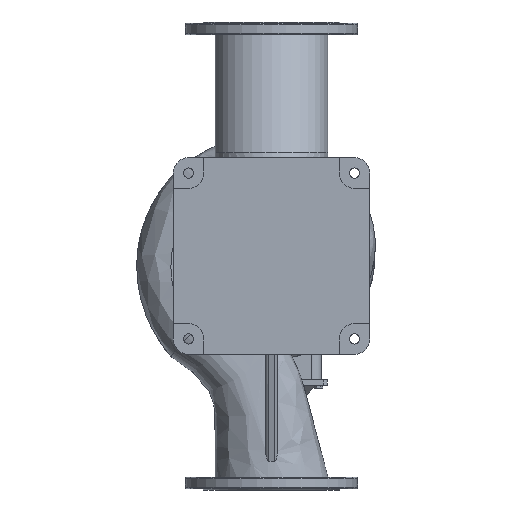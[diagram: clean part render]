
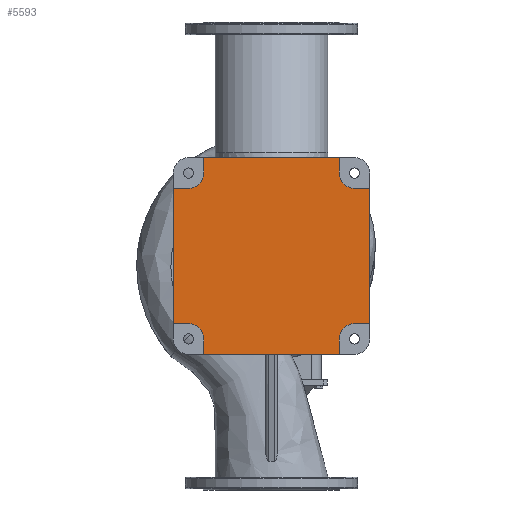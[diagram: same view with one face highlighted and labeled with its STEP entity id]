
A CAD part, front view. The second image highlights one B-rep face of the part: STEP entity #5593.
In plain terms, the highlighted planar face has unit normal (0, -1, 0).
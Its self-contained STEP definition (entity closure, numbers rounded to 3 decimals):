
#805 = EDGE_CURVE ( 'NONE', #48292, #57096, #47010, .T. ) ;
#837 = ORIENTED_EDGE ( 'NONE', *, *, #15799, .T. ) ;
#1510 = ORIENTED_EDGE ( 'NONE', *, *, #47247, .T. ) ;
#2461 = ORIENTED_EDGE ( 'NONE', *, *, #77163, .T. ) ;
#2468 = CARTESIAN_POINT ( 'NONE',  ( -159., -295., -231. ) ) ;
#3539 = CARTESIAN_POINT ( 'NONE',  ( 195., -295., -195. ) ) ;
#4207 = CARTESIAN_POINT ( 'NONE',  ( -195., -295., -195. ) ) ;
#5561 = ORIENTED_EDGE ( 'NONE', *, *, #36213, .T. ) ;
#5593 = ADVANCED_FACE ( 'NONE', ( #45894 ), #69877, .F. ) ;
#5742 = CARTESIAN_POINT ( 'NONE',  ( 159., -295., -231. ) ) ;
#6068 = EDGE_CURVE ( 'NONE', #41532, #18118, #39637, .T. ) ;
#7045 = CARTESIAN_POINT ( 'NONE',  ( 231., -295., 159. ) ) ;
#7058 = DIRECTION ( 'NONE',  ( 0., 0., -1. ) ) ;
#7351 = VECTOR ( 'NONE', #7808, 1000. ) ;
#7808 = DIRECTION ( 'NONE',  ( 0., 0., 1. ) ) ;
#7964 = CARTESIAN_POINT ( 'NONE',  ( -195., -295., -195. ) ) ;
#8130 = EDGE_CURVE ( 'NONE', #13448, #61997, #32409, .T. ) ;
#8878 = AXIS2_PLACEMENT_3D ( 'NONE', #3539, #16889, #46019 ) ;
#9380 = DIRECTION ( 'NONE',  ( -1., 0., 0. ) ) ;
#10540 = CARTESIAN_POINT ( 'NONE',  ( 195., -295., 159. ) ) ;
#12278 = CARTESIAN_POINT ( 'NONE',  ( -195., -295., 195. ) ) ;
#12856 = DIRECTION ( 'NONE',  ( 0., 0., 1. ) ) ;
#13261 = CARTESIAN_POINT ( 'NONE',  ( 159., -295., 195. ) ) ;
#13448 = VERTEX_POINT ( 'NONE', #49775 ) ;
#13551 = EDGE_CURVE ( 'NONE', #18118, #75315, #37539, .T. ) ;
#13980 = CARTESIAN_POINT ( 'NONE',  ( -195., -295., -159. ) ) ;
#14493 = CARTESIAN_POINT ( 'NONE',  ( -159., -295., 231. ) ) ;
#14932 = ORIENTED_EDGE ( 'NONE', *, *, #8130, .T. ) ;
#15567 = DIRECTION ( 'NONE',  ( 0., 0., 1. ) ) ;
#15799 = EDGE_CURVE ( 'NONE', #61997, #45789, #73198, .T. ) ;
#15818 = CARTESIAN_POINT ( 'NONE',  ( -231., -295., -159. ) ) ;
#15975 = DIRECTION ( 'NONE',  ( 1., 0., 0. ) ) ;
#16166 = EDGE_CURVE ( 'NONE', #45789, #35808, #42824, .T. ) ;
#16667 = VERTEX_POINT ( 'NONE', #56470 ) ;
#16889 = DIRECTION ( 'NONE',  ( 0., 1., 0. ) ) ;
#18095 = CARTESIAN_POINT ( 'NONE',  ( -231., -295., 159. ) ) ;
#18118 = VERTEX_POINT ( 'NONE', #44972 ) ;
#19824 = CARTESIAN_POINT ( 'NONE',  ( -195., -295., -159. ) ) ;
#20220 = LINE ( 'NONE', #19824, #62139 ) ;
#21113 = CARTESIAN_POINT ( 'NONE',  ( 159., -295., -195. ) ) ;
#21208 = VERTEX_POINT ( 'NONE', #39808 ) ;
#21485 = VECTOR ( 'NONE', #45475, 1000. ) ;
#22256 = ORIENTED_EDGE ( 'NONE', *, *, #70310, .T. ) ;
#23081 = LINE ( 'NONE', #52202, #64013 ) ;
#23144 = ORIENTED_EDGE ( 'NONE', *, *, #28490, .T. ) ;
#26010 = DIRECTION ( 'NONE',  ( 0., 0., 1. ) ) ;
#26520 = LINE ( 'NONE', #62729, #48320 ) ;
#26530 = ORIENTED_EDGE ( 'NONE', *, *, #32674, .T. ) ;
#26866 = DIRECTION ( 'NONE',  ( 0., 0., -1. ) ) ;
#27298 = EDGE_CURVE ( 'NONE', #75315, #76181, #37673, .T. ) ;
#27361 = CARTESIAN_POINT ( 'NONE',  ( -159., -295., 195. ) ) ;
#27581 = VERTEX_POINT ( 'NONE', #13980 ) ;
#28265 = VECTOR ( 'NONE', #15567, 1000. ) ;
#28490 = EDGE_CURVE ( 'NONE', #76181, #69025, #23081, .T. ) ;
#28951 = CIRCLE ( 'NONE', #8878, 36. ) ;
#31483 = CIRCLE ( 'NONE', #34036, 36. ) ;
#31493 = CARTESIAN_POINT ( 'NONE',  ( -195., -295., 159. ) ) ;
#31498 = EDGE_CURVE ( 'NONE', #70486, #50097, #33553, .T. ) ;
#31650 = DIRECTION ( 'NONE',  ( 1., 0., 0. ) ) ;
#31920 = DIRECTION ( 'NONE',  ( 0., 1., 0. ) ) ;
#32409 = CIRCLE ( 'NONE', #55036, 36. ) ;
#32495 = AXIS2_PLACEMENT_3D ( 'NONE', #66731, #61606, #12856 ) ;
#32674 = EDGE_CURVE ( 'NONE', #69025, #13448, #33661, .T. ) ;
#32820 = ORIENTED_EDGE ( 'NONE', *, *, #59157, .T. ) ;
#33553 = LINE ( 'NONE', #39071, #55874 ) ;
#33661 = LINE ( 'NONE', #27361, #21485 ) ;
#34036 = AXIS2_PLACEMENT_3D ( 'NONE', #7964, #31920, #26010 ) ;
#35808 = VERTEX_POINT ( 'NONE', #15818 ) ;
#36207 = ORIENTED_EDGE ( 'NONE', *, *, #31498, .T. ) ;
#36213 = EDGE_CURVE ( 'NONE', #57096, #16667, #28951, .T. ) ;
#37539 = CIRCLE ( 'NONE', #32495, 36. ) ;
#37656 = EDGE_LOOP ( 'NONE', ( #1510, #36207, #39805, #53976, #5561, #32820, #22256, #68463, #39383, #47046, #23144, #26530, #14932, #837, #44232, #2461 ) ) ;
#37673 = LINE ( 'NONE', #68359, #7351 ) ;
#38746 = EDGE_CURVE ( 'NONE', #50097, #48292, #26520, .T. ) ;
#38795 = VECTOR ( 'NONE', #43675, 1000. ) ;
#39071 = CARTESIAN_POINT ( 'NONE',  ( -159., -295., -195. ) ) ;
#39383 = ORIENTED_EDGE ( 'NONE', *, *, #13551, .T. ) ;
#39637 = LINE ( 'NONE', #10540, #51902 ) ;
#39805 = ORIENTED_EDGE ( 'NONE', *, *, #38746, .T. ) ;
#39808 = CARTESIAN_POINT ( 'NONE',  ( 231., -295., -159. ) ) ;
#40409 = VECTOR ( 'NONE', #48287, 1000. ) ;
#41532 = VERTEX_POINT ( 'NONE', #7045 ) ;
#41760 = CARTESIAN_POINT ( 'NONE',  ( -159., -295., -195. ) ) ;
#42824 = LINE ( 'NONE', #43592, #43840 ) ;
#43543 = CARTESIAN_POINT ( 'NONE',  ( 195., -295., -159. ) ) ;
#43592 = CARTESIAN_POINT ( 'NONE',  ( -231., -295., -159. ) ) ;
#43675 = DIRECTION ( 'NONE',  ( -1., 0., 0. ) ) ;
#43840 = VECTOR ( 'NONE', #7058, 1000. ) ;
#44183 = DIRECTION ( 'NONE',  ( 0., 0., 1. ) ) ;
#44232 = ORIENTED_EDGE ( 'NONE', *, *, #16166, .T. ) ;
#44972 = CARTESIAN_POINT ( 'NONE',  ( 195., -295., 159. ) ) ;
#45475 = DIRECTION ( 'NONE',  ( 0., 0., -1. ) ) ;
#45789 = VERTEX_POINT ( 'NONE', #18095 ) ;
#45894 = FACE_OUTER_BOUND ( 'NONE', #37656, .T. ) ;
#46019 = DIRECTION ( 'NONE',  ( 0., 0., 1. ) ) ;
#47010 = LINE ( 'NONE', #71008, #28265 ) ;
#47046 = ORIENTED_EDGE ( 'NONE', *, *, #27298, .T. ) ;
#47087 = DIRECTION ( 'NONE',  ( -1., 0., 0. ) ) ;
#47247 = EDGE_CURVE ( 'NONE', #27581, #70486, #31483, .T. ) ;
#48287 = DIRECTION ( 'NONE',  ( 1., 0., 0. ) ) ;
#48292 = VERTEX_POINT ( 'NONE', #5742 ) ;
#48320 = VECTOR ( 'NONE', #31650, 1000. ) ;
#49775 = CARTESIAN_POINT ( 'NONE',  ( -159., -295., 195. ) ) ;
#50097 = VERTEX_POINT ( 'NONE', #2468 ) ;
#51902 = VECTOR ( 'NONE', #47087, 1000. ) ;
#52202 = CARTESIAN_POINT ( 'NONE',  ( -159., -295., 231. ) ) ;
#53976 = ORIENTED_EDGE ( 'NONE', *, *, #805, .T. ) ;
#54352 = DIRECTION ( 'NONE',  ( 0., 0., 1. ) ) ;
#55036 = AXIS2_PLACEMENT_3D ( 'NONE', #12278, #71679, #54352 ) ;
#55874 = VECTOR ( 'NONE', #26866, 1000. ) ;
#56015 = DIRECTION ( 'NONE',  ( 1., 0., 0. ) ) ;
#56470 = CARTESIAN_POINT ( 'NONE',  ( 195., -295., -159. ) ) ;
#56583 = VECTOR ( 'NONE', #44183, 1000. ) ;
#57096 = VERTEX_POINT ( 'NONE', #21113 ) ;
#57804 = CARTESIAN_POINT ( 'NONE',  ( -195., -295., 159. ) ) ;
#59157 = EDGE_CURVE ( 'NONE', #16667, #21208, #67166, .T. ) ;
#61125 = CARTESIAN_POINT ( 'NONE',  ( 231., -295., 159. ) ) ;
#61606 = DIRECTION ( 'NONE',  ( 0., 1., 0. ) ) ;
#61997 = VERTEX_POINT ( 'NONE', #57804 ) ;
#62070 = AXIS2_PLACEMENT_3D ( 'NONE', #4207, #75773, #15975 ) ;
#62139 = VECTOR ( 'NONE', #56015, 1000. ) ;
#62729 = CARTESIAN_POINT ( 'NONE',  ( 159., -295., -231. ) ) ;
#64013 = VECTOR ( 'NONE', #9380, 1000. ) ;
#66731 = CARTESIAN_POINT ( 'NONE',  ( 195., -295., 195. ) ) ;
#67020 = LINE ( 'NONE', #61125, #56583 ) ;
#67166 = LINE ( 'NONE', #43543, #40409 ) ;
#68359 = CARTESIAN_POINT ( 'NONE',  ( 159., -295., 195. ) ) ;
#68463 = ORIENTED_EDGE ( 'NONE', *, *, #6068, .T. ) ;
#69025 = VERTEX_POINT ( 'NONE', #14493 ) ;
#69877 = PLANE ( 'NONE',  #62070 ) ;
#70310 = EDGE_CURVE ( 'NONE', #21208, #41532, #67020, .T. ) ;
#70486 = VERTEX_POINT ( 'NONE', #41760 ) ;
#71008 = CARTESIAN_POINT ( 'NONE',  ( 159., -295., -195. ) ) ;
#71679 = DIRECTION ( 'NONE',  ( 0., 1., 0. ) ) ;
#71697 = CARTESIAN_POINT ( 'NONE',  ( 159., -295., 231. ) ) ;
#73198 = LINE ( 'NONE', #31493, #38795 ) ;
#75315 = VERTEX_POINT ( 'NONE', #13261 ) ;
#75773 = DIRECTION ( 'NONE',  ( 0., 1., 0. ) ) ;
#76181 = VERTEX_POINT ( 'NONE', #71697 ) ;
#77163 = EDGE_CURVE ( 'NONE', #35808, #27581, #20220, .T. ) ;
